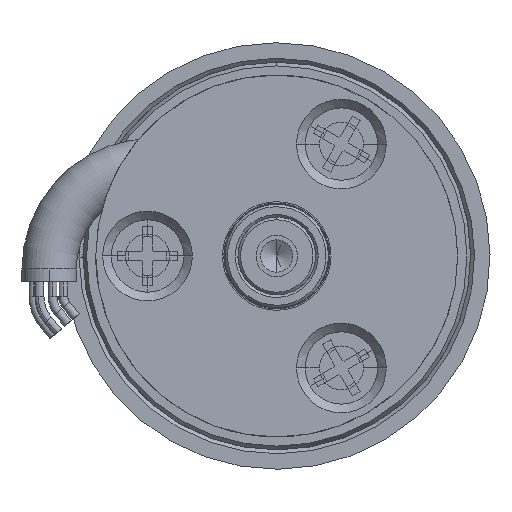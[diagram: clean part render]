
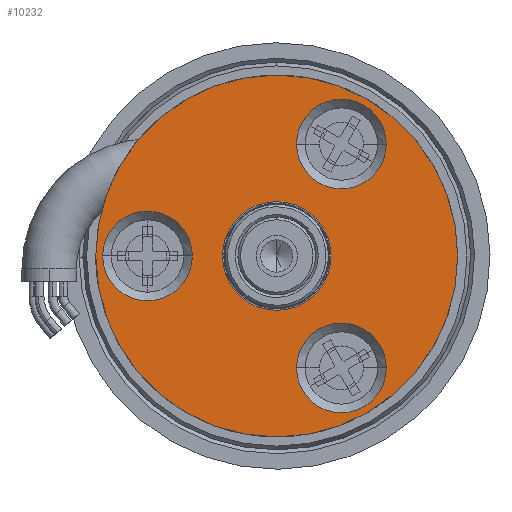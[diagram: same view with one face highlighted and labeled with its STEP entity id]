
A CAD part, left-side view. The second image highlights one B-rep face of the part: STEP entity #10232.
In plain terms, the highlighted planar face has unit normal (-1, 0, 0) as drawn and (0, -1, 0) by its records, which use the part's own axes.
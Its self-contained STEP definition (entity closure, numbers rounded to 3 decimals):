
#124 = CIRCLE ( 'NONE', #146, 4.2 ) ;
#146 = AXIS2_PLACEMENT_3D ( 'NONE', #2994, #6446, #1213 ) ;
#256 = AXIS2_PLACEMENT_3D ( 'NONE', #930, #10531, #1750 ) ;
#386 = AXIS2_PLACEMENT_3D ( 'NONE', #10259, #2288, #6724 ) ;
#503 = EDGE_CURVE ( 'NONE', #1815, #7640, #7957, .T. ) ;
#604 = CARTESIAN_POINT ( 'NONE',  ( -8.66, 0., -1.53 ) ) ;
#629 = CIRCLE ( 'NONE', #909, 3.47 ) ;
#797 = DIRECTION ( 'NONE',  ( 0., 0., -1. ) ) ;
#909 = AXIS2_PLACEMENT_3D ( 'NONE', #9157, #10967, #3854 ) ;
#930 = CARTESIAN_POINT ( 'NONE',  ( 0., 0., 0. ) ) ;
#945 = ORIENTED_EDGE ( 'NONE', *, *, #8406, .F. ) ;
#954 = EDGE_LOOP ( 'NONE', ( #7576, #5094 ) ) ;
#1040 = CARTESIAN_POINT ( 'NONE',  ( 0., 0., 10. ) ) ;
#1186 = CIRCLE ( 'NONE', #6782, 3.47 ) ;
#1213 = DIRECTION ( 'NONE',  ( 0., 0., -1. ) ) ;
#1341 = FACE_BOUND ( 'NONE', #8267, .T. ) ;
#1478 = EDGE_CURVE ( 'NONE', #11080, #7902, #1186, .T. ) ;
#1499 = CARTESIAN_POINT ( 'NONE',  ( 0., 0., 0. ) ) ;
#1564 = VERTEX_POINT ( 'NONE', #2998 ) ;
#1700 = EDGE_CURVE ( 'NONE', #5270, #2892, #1839, .T. ) ;
#1743 = ORIENTED_EDGE ( 'NONE', *, *, #3425, .F. ) ;
#1750 = DIRECTION ( 'NONE',  ( 0., 0., 1. ) ) ;
#1815 = VERTEX_POINT ( 'NONE', #9923 ) ;
#1839 = CIRCLE ( 'NONE', #4567, 3.47 ) ;
#2036 = CARTESIAN_POINT ( 'NONE',  ( 8.66, 0., -8.47 ) ) ;
#2288 = DIRECTION ( 'NONE',  ( 0., -1., 0. ) ) ;
#2605 = DIRECTION ( 'NONE',  ( 0., 0., -1. ) ) ;
#2671 = CIRCLE ( 'NONE', #3021, 3.47 ) ;
#2705 = ORIENTED_EDGE ( 'NONE', *, *, #8582, .F. ) ;
#2892 = VERTEX_POINT ( 'NONE', #604 ) ;
#2994 = CARTESIAN_POINT ( 'NONE',  ( 0., 0., 0. ) ) ;
#2998 = CARTESIAN_POINT ( 'NONE',  ( 0., 0., 13.47 ) ) ;
#3021 = AXIS2_PLACEMENT_3D ( 'NONE', #1040, #4633, #4512 ) ;
#3041 = ORIENTED_EDGE ( 'NONE', *, *, #6591, .F. ) ;
#3204 = ORIENTED_EDGE ( 'NONE', *, *, #1700, .F. ) ;
#3413 = CARTESIAN_POINT ( 'NONE',  ( 0., 0., 6.53 ) ) ;
#3425 = EDGE_CURVE ( 'NONE', #7902, #11080, #3889, .T. ) ;
#3627 = CARTESIAN_POINT ( 'NONE',  ( 0., 0., 0. ) ) ;
#3646 = VERTEX_POINT ( 'NONE', #3413 ) ;
#3854 = DIRECTION ( 'NONE',  ( 0., 0., -1. ) ) ;
#3889 = CIRCLE ( 'NONE', #5618, 3.47 ) ;
#3966 = CARTESIAN_POINT ( 'NONE',  ( 8.66, 0., -5. ) ) ;
#4049 = ORIENTED_EDGE ( 'NONE', *, *, #11167, .F. ) ;
#4266 = DIRECTION ( 'NONE',  ( 0., -1., 0. ) ) ;
#4403 = DIRECTION ( 'NONE',  ( 0., -1., 0. ) ) ;
#4512 = DIRECTION ( 'NONE',  ( 0., 0., -1. ) ) ;
#4567 = AXIS2_PLACEMENT_3D ( 'NONE', #5129, #4266, #797 ) ;
#4633 = DIRECTION ( 'NONE',  ( 0., -1., 0. ) ) ;
#5094 = ORIENTED_EDGE ( 'NONE', *, *, #6184, .F. ) ;
#5129 = CARTESIAN_POINT ( 'NONE',  ( -8.66, 0., -5. ) ) ;
#5270 = VERTEX_POINT ( 'NONE', #10426 ) ;
#5323 = VERTEX_POINT ( 'NONE', #9505 ) ;
#5618 = AXIS2_PLACEMENT_3D ( 'NONE', #6157, #4403, #7082 ) ;
#6004 = ORIENTED_EDGE ( 'NONE', *, *, #1478, .F. ) ;
#6075 = ORIENTED_EDGE ( 'NONE', *, *, #6674, .F. ) ;
#6157 = CARTESIAN_POINT ( 'NONE',  ( 8.66, 0., -5. ) ) ;
#6184 = EDGE_CURVE ( 'NONE', #7640, #1815, #10776, .T. ) ;
#6446 = DIRECTION ( 'NONE',  ( 0., -1., 0. ) ) ;
#6582 = DIRECTION ( 'NONE',  ( 0., 0., -1. ) ) ;
#6591 = EDGE_CURVE ( 'NONE', #5323, #10087, #124, .T. ) ;
#6674 = EDGE_CURVE ( 'NONE', #10087, #5323, #6704, .T. ) ;
#6704 = CIRCLE ( 'NONE', #6829, 4.2 ) ;
#6724 = DIRECTION ( 'NONE',  ( 0., 0., -1. ) ) ;
#6732 = DIRECTION ( 'NONE',  ( 0., 1., 0. ) ) ;
#6782 = AXIS2_PLACEMENT_3D ( 'NONE', #3966, #10954, #6582 ) ;
#6822 = FACE_BOUND ( 'NONE', #7022, .T. ) ;
#6829 = AXIS2_PLACEMENT_3D ( 'NONE', #9459, #7582, #2605 ) ;
#7022 = EDGE_LOOP ( 'NONE', ( #1743, #6004 ) ) ;
#7082 = DIRECTION ( 'NONE',  ( 0., 0., -1. ) ) ;
#7090 = FACE_BOUND ( 'NONE', #10813, .T. ) ;
#7214 = DIRECTION ( 'NONE',  ( 0., 1., 0. ) ) ;
#7576 = ORIENTED_EDGE ( 'NONE', *, *, #503, .F. ) ;
#7582 = DIRECTION ( 'NONE',  ( 0., -1., 0. ) ) ;
#7640 = VERTEX_POINT ( 'NONE', #10969 ) ;
#7785 = DIRECTION ( 'NONE',  ( 0., 0., 1. ) ) ;
#7902 = VERTEX_POINT ( 'NONE', #2036 ) ;
#7957 = CIRCLE ( 'NONE', #10226, 14. ) ;
#8224 = EDGE_LOOP ( 'NONE', ( #3204, #2705 ) ) ;
#8267 = EDGE_LOOP ( 'NONE', ( #4049, #945 ) ) ;
#8332 = CIRCLE ( 'NONE', #386, 3.47 ) ;
#8401 = AXIS2_PLACEMENT_3D ( 'NONE', #3627, #7214, #10691 ) ;
#8406 = EDGE_CURVE ( 'NONE', #1564, #3646, #2671, .T. ) ;
#8582 = EDGE_CURVE ( 'NONE', #2892, #5270, #629, .T. ) ;
#9157 = CARTESIAN_POINT ( 'NONE',  ( -8.66, 0., -5. ) ) ;
#9459 = CARTESIAN_POINT ( 'NONE',  ( 0., 0., 0. ) ) ;
#9505 = CARTESIAN_POINT ( 'NONE',  ( 0., 0., 4.2 ) ) ;
#9825 = PLANE ( 'NONE',  #8401 ) ;
#9923 = CARTESIAN_POINT ( 'NONE',  ( 0., 0., -14. ) ) ;
#9986 = FACE_OUTER_BOUND ( 'NONE', #954, .T. ) ;
#10087 = VERTEX_POINT ( 'NONE', #11315 ) ;
#10226 = AXIS2_PLACEMENT_3D ( 'NONE', #1499, #6732, #7785 ) ;
#10232 = ADVANCED_FACE ( 'NONE', ( #7090, #1341, #10651, #6822, #9986 ), #9825, .F. ) ;
#10259 = CARTESIAN_POINT ( 'NONE',  ( 0., 0., 10. ) ) ;
#10426 = CARTESIAN_POINT ( 'NONE',  ( -8.66, 0., -8.47 ) ) ;
#10531 = DIRECTION ( 'NONE',  ( 0., 1., 0. ) ) ;
#10651 = FACE_BOUND ( 'NONE', #8224, .T. ) ;
#10691 = DIRECTION ( 'NONE',  ( 0., 0., 1. ) ) ;
#10776 = CIRCLE ( 'NONE', #256, 14. ) ;
#10813 = EDGE_LOOP ( 'NONE', ( #6075, #3041 ) ) ;
#10873 = CARTESIAN_POINT ( 'NONE',  ( 8.66, 0., -1.53 ) ) ;
#10954 = DIRECTION ( 'NONE',  ( 0., -1., 0. ) ) ;
#10967 = DIRECTION ( 'NONE',  ( 0., -1., 0. ) ) ;
#10969 = CARTESIAN_POINT ( 'NONE',  ( 0., 0., 14. ) ) ;
#11080 = VERTEX_POINT ( 'NONE', #10873 ) ;
#11167 = EDGE_CURVE ( 'NONE', #3646, #1564, #8332, .T. ) ;
#11315 = CARTESIAN_POINT ( 'NONE',  ( 0., 0., -4.2 ) ) ;
